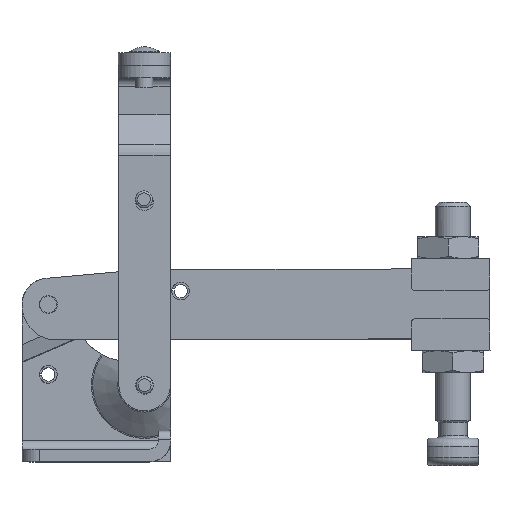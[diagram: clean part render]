
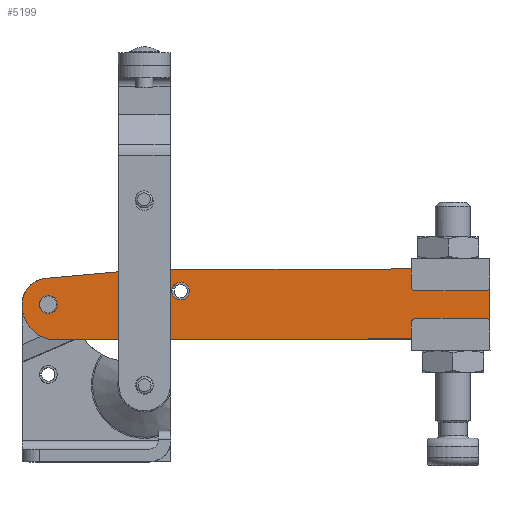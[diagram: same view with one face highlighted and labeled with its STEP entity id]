
A CAD part, top view. The second image highlights one B-rep face of the part: STEP entity #5199.
In plain terms, the highlighted planar face has unit normal (0, 0, 1).
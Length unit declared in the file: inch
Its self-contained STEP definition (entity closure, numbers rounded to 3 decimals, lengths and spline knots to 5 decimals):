
#157=LINE('',#8359,#471);
#162=LINE('',#8373,#476);
#166=LINE('',#8385,#480);
#170=LINE('',#8397,#484);
#471=VECTOR('',#6704,0.6683);
#476=VECTOR('',#6717,2.41452);
#480=VECTOR('',#6729,0.438);
#484=VECTOR('',#6741,3.1141);
#794=PLANE('',#5699);
#1187=FACE_BOUND('',#1825,.T.);
#1188=FACE_BOUND('',#1826,.T.);
#1189=FACE_BOUND('',#1827,.T.);
#1403=FACE_OUTER_BOUND('',#1824,.T.);
#1824=EDGE_LOOP('',(#4140,#4141,#4142,#4143,#4144,#4145,#4146,#4147,#4148));
#1825=EDGE_LOOP('',(#4149));
#1826=EDGE_LOOP('',(#4150));
#1827=EDGE_LOOP('',(#4151));
#2210=CIRCLE('',#5672,0.063);
#2212=CIRCLE('',#5675,0.064);
#2214=CIRCLE('',#5678,0.064);
#2215=CIRCLE('',#5681,0.5);
#2217=CIRCLE('',#5685,0.031);
#2219=CIRCLE('',#5689,0.031);
#2221=CIRCLE('',#5693,0.25);
#2223=CIRCLE('',#5696,0.188);
#2573=VERTEX_POINT('',#8344);
#2575=VERTEX_POINT('',#8349);
#2577=VERTEX_POINT('',#8354);
#2578=VERTEX_POINT('',#8357);
#2579=VERTEX_POINT('',#8358);
#2582=VERTEX_POINT('',#8366);
#2584=VERTEX_POINT('',#8372);
#2586=VERTEX_POINT('',#8378);
#2588=VERTEX_POINT('',#8384);
#2590=VERTEX_POINT('',#8390);
#2592=VERTEX_POINT('',#8396);
#2594=VERTEX_POINT('',#8402);
#3136=EDGE_CURVE('',#2573,#2573,#2210,.T.);
#3138=EDGE_CURVE('',#2575,#2575,#2212,.T.);
#3140=EDGE_CURVE('',#2577,#2577,#2214,.T.);
#3141=EDGE_CURVE('',#2578,#2579,#157,.T.);
#3145=EDGE_CURVE('',#2579,#2582,#2215,.T.);
#3148=EDGE_CURVE('',#2582,#2584,#162,.T.);
#3151=EDGE_CURVE('',#2584,#2586,#2217,.T.);
#3154=EDGE_CURVE('',#2586,#2588,#166,.T.);
#3157=EDGE_CURVE('',#2588,#2590,#2219,.T.);
#3160=EDGE_CURVE('',#2590,#2592,#170,.T.);
#3163=EDGE_CURVE('',#2592,#2594,#2221,.T.);
#3166=EDGE_CURVE('',#2594,#2578,#2223,.T.);
#4140=ORIENTED_EDGE('',*,*,#3141,.F.);
#4141=ORIENTED_EDGE('',*,*,#3166,.F.);
#4142=ORIENTED_EDGE('',*,*,#3163,.F.);
#4143=ORIENTED_EDGE('',*,*,#3160,.F.);
#4144=ORIENTED_EDGE('',*,*,#3157,.F.);
#4145=ORIENTED_EDGE('',*,*,#3154,.F.);
#4146=ORIENTED_EDGE('',*,*,#3151,.F.);
#4147=ORIENTED_EDGE('',*,*,#3148,.F.);
#4148=ORIENTED_EDGE('',*,*,#3145,.F.);
#4149=ORIENTED_EDGE('',*,*,#3140,.T.);
#4150=ORIENTED_EDGE('',*,*,#3138,.T.);
#4151=ORIENTED_EDGE('',*,*,#3136,.T.);
#5199=ADVANCED_FACE('',(#1403,#1187,#1188,#1189),#794,.T.);
#5672=AXIS2_PLACEMENT_3D('',#8345,#6688,#6689);
#5675=AXIS2_PLACEMENT_3D('',#8350,#6694,#6695);
#5678=AXIS2_PLACEMENT_3D('',#8355,#6700,#6701);
#5681=AXIS2_PLACEMENT_3D('',#8367,#6710,#6711);
#5685=AXIS2_PLACEMENT_3D('',#8379,#6722,#6723);
#5689=AXIS2_PLACEMENT_3D('',#8391,#6734,#6735);
#5693=AXIS2_PLACEMENT_3D('',#8403,#6746,#6747);
#5696=AXIS2_PLACEMENT_3D('',#8408,#6753,#6754);
#5699=AXIS2_PLACEMENT_3D('',#8411,#6759,#6760);
#6688=DIRECTION('center_axis',(0.,0.,
-1.));
#6689=DIRECTION('ref_axis',(-1.,-0.001,0.));
#6694=DIRECTION('center_axis',(0.,0.,
-1.));
#6695=DIRECTION('ref_axis',(-1.,-0.001,0.));
#6700=DIRECTION('center_axis',(0.,0.,
-1.));
#6701=DIRECTION('ref_axis',(-1.,-0.001,0.));
#6704=DIRECTION('',(0.996,0.091,0.));
#6710=DIRECTION('center_axis',(0.,0.,
-1.));
#6711=DIRECTION('ref_axis',(-0.001,1.,0.));
#6717=DIRECTION('',(1.,0.001,0.));
#6722=DIRECTION('center_axis',(0.,0.,
-1.));
#6723=DIRECTION('ref_axis',(1.,0.001,0.));
#6729=DIRECTION('',(0.001,-1.,0.));
#6734=DIRECTION('center_axis',(0.,0.,
-1.));
#6735=DIRECTION('ref_axis',(0.001,-1.,0.));
#6741=DIRECTION('',(-1.,-0.001,0.));
#6746=DIRECTION('center_axis',(0.,0.,
-1.));
#6747=DIRECTION('ref_axis',(-0.988,0.156,0.));
#6753=DIRECTION('center_axis',(0.,0.,
-1.));
#6754=DIRECTION('ref_axis',(-0.001,1.,0.));
#6759=DIRECTION('center_axis',(0.,0.,
1.));
#6760=DIRECTION('ref_axis',(1.,0.001,0.));
#8344=CARTESIAN_POINT('',(10.31664,7.00588,0.));
#8345=CARTESIAN_POINT('Origin',(10.25364,7.00579,0.));
#8349=CARTESIAN_POINT('',(9.37178,6.91048,0.));
#8350=CARTESIAN_POINT('Origin',(9.30778,6.91039,0.));
#8354=CARTESIAN_POINT('',(10.05969,6.9735,0.));
#8355=CARTESIAN_POINT('Origin',(9.99569,6.9734,0.));
#8357=CARTESIAN_POINT('',(9.3075,7.09838,0.));
#8358=CARTESIAN_POINT('',(9.97302,7.15935,0.));
#8359=CARTESIAN_POINT('',(9.3075,7.09838,0.));
#8366=CARTESIAN_POINT('',(10.0179,7.16144,0.));
#8367=CARTESIAN_POINT('Origin',(10.01864,6.66144,0.));
#8372=CARTESIAN_POINT('',(12.43241,7.16501,0.));
#8373=CARTESIAN_POINT('',(10.0179,7.16144,0.));
#8378=CARTESIAN_POINT('',(12.46346,7.13406,0.));
#8379=CARTESIAN_POINT('Origin',(12.43246,7.13401,0.));
#8384=CARTESIAN_POINT('',(12.4641,6.69606,0.));
#8385=CARTESIAN_POINT('',(12.46346,7.13406,0.));
#8390=CARTESIAN_POINT('',(12.43315,6.66501,0.));
#8391=CARTESIAN_POINT('Origin',(12.4331,6.69601,0.));
#8396=CARTESIAN_POINT('',(9.31905,6.6604,0.));
#8397=CARTESIAN_POINT('',(12.43315,6.66501,0.));
#8402=CARTESIAN_POINT('',(9.12287,6.94431,0.));
#8403=CARTESIAN_POINT('Origin',(9.36979,6.9052,0.));
#8408=CARTESIAN_POINT('Origin',(9.30778,6.91039,0.));
#8411=CARTESIAN_POINT('Origin',(10.8417,6.90808,0.));
